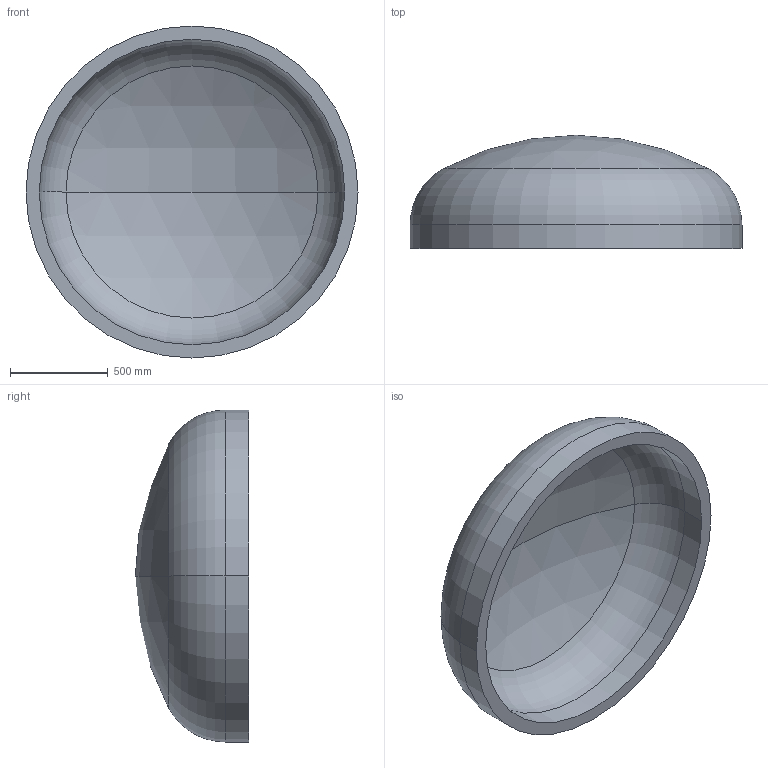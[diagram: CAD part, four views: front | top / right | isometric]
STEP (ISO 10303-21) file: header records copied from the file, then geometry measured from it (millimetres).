
FILE_DESCRIPTION (( 'STEP AP203' ), '1' );
FILE_NAME ('DIN 28013 Korbbogenform_-_Boden DIN 28013 - 1700 x 120 - I - s=68.step', '2016-07-01T11:58:29', ( '' ), ( '' ), 'SwSTEP 2.0', 'SolidWorks 2013', '' );
FILE_SCHEMA (( 'CONFIG_CONTROL_DESIGN' ));
Length unit declared in the file: millimetre
Products named in the file (1): DIN 28013 Korbbogenform_-_Boden DIN 28013 - 1700 x 120 - I - s=68
Bounding box: 1700 x 579.75 x 1700 mm (x, y, z)
Volume: 244524640.4 mm3; surface area: 7550225.1 mm2
Topology: 1 solids, 1 shells, 13 faces, 24 edges, 14 vertices
Faces by surface type: torus 4, cylinder 4, sphere 4, plane 1
Entity records: 407 total; most frequent: DIRECTION 72, CARTESIAN_POINT 52, ORIENTED_EDGE 48, AXIS2_PLACEMENT_3D 34, EDGE_CURVE 24, CIRCLE 20, VERTEX_POINT 14, EDGE_LOOP 14
